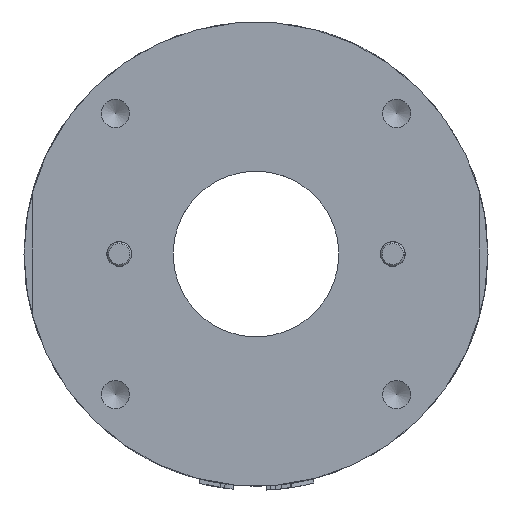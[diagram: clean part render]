
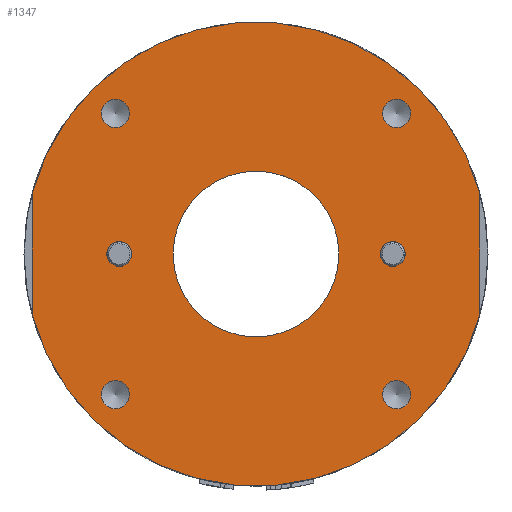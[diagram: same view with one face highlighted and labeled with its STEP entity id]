
A CAD part, left-side view. The second image highlights one B-rep face of the part: STEP entity #1347.
In plain terms, the highlighted planar face has unit normal (-1, 0, 0).
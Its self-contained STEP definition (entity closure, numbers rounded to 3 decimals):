
#333=FACE_BOUND('',#2508,.T.);
#334=FACE_BOUND('',#2509,.T.);
#335=FACE_BOUND('',#2510,.T.);
#336=FACE_BOUND('',#2511,.T.);
#337=FACE_BOUND('',#2512,.T.);
#338=FACE_BOUND('',#2513,.T.);
#339=FACE_BOUND('',#2514,.T.);
#340=FACE_BOUND('',#2515,.T.);
#471=CIRCLE('',#7249,1.5);
#472=CIRCLE('',#7252,1.5);
#528=CIRCLE('',#7361,28.);
#532=CIRCLE('',#7369,28.);
#533=CIRCLE('',#7371,1.7);
#534=CIRCLE('',#7373,1.7);
#535=CIRCLE('',#7375,1.7);
#536=CIRCLE('',#7377,1.7);
#538=CIRCLE('',#7389,10.);
#855=PLANE('',#7390);
#1002=LINE('',#28292,#1736);
#1006=LINE('',#28304,#1740);
#1347=ADVANCED_FACE('',(#333,#334,#335,#336,#337,#338,#339,#340),#855,.T.);
#1736=VECTOR('',#8510,1.);
#1740=VECTOR('',#8522,1.);
#2508=EDGE_LOOP('',(#4104));
#2509=EDGE_LOOP('',(#4105));
#2510=EDGE_LOOP('',(#4106));
#2511=EDGE_LOOP('',(#4107));
#2512=EDGE_LOOP('',(#4108));
#2513=EDGE_LOOP('',(#4109));
#2514=EDGE_LOOP('',(#4110));
#2515=EDGE_LOOP('',(#4111,#4112,#4113,#4114));
#4104=ORIENTED_EDGE('',*,*,#6158,.T.);
#4105=ORIENTED_EDGE('',*,*,#6157,.T.);
#4106=ORIENTED_EDGE('',*,*,#6156,.T.);
#4107=ORIENTED_EDGE('',*,*,#6155,.T.);
#4108=ORIENTED_EDGE('',*,*,#6063,.T.);
#4109=ORIENTED_EDGE('',*,*,#6066,.T.);
#4110=ORIENTED_EDGE('',*,*,#6167,.T.);
#4111=ORIENTED_EDGE('',*,*,#6154,.F.);
#4112=ORIENTED_EDGE('',*,*,#6151,.T.);
#4113=ORIENTED_EDGE('',*,*,#6146,.F.);
#4114=ORIENTED_EDGE('',*,*,#6145,.T.);
#5123=VERTEX_POINT('',#27827);
#5126=VERTEX_POINT('',#27843);
#5206=VERTEX_POINT('',#28287);
#5208=VERTEX_POINT('',#28291);
#5209=VERTEX_POINT('',#28295);
#5212=VERTEX_POINT('',#28302);
#5214=VERTEX_POINT('',#28314);
#5215=VERTEX_POINT('',#28317);
#5216=VERTEX_POINT('',#28320);
#5217=VERTEX_POINT('',#28323);
#5225=VERTEX_POINT('',#28575);
#6063=EDGE_CURVE('',#5123,#5123,#471,.T.);
#6066=EDGE_CURVE('',#5126,#5126,#472,.T.);
#6145=EDGE_CURVE('',#5206,#5208,#1002,.T.);
#6146=EDGE_CURVE('',#5206,#5209,#528,.T.);
#6151=EDGE_CURVE('',#5212,#5209,#1006,.T.);
#6154=EDGE_CURVE('',#5212,#5208,#532,.T.);
#6155=EDGE_CURVE('',#5214,#5214,#533,.T.);
#6156=EDGE_CURVE('',#5215,#5215,#534,.T.);
#6157=EDGE_CURVE('',#5216,#5216,#535,.T.);
#6158=EDGE_CURVE('',#5217,#5217,#536,.T.);
#6167=EDGE_CURVE('',#5225,#5225,#538,.T.);
#7249=AXIS2_PLACEMENT_3D('',#27826,#8271,#8272);
#7252=AXIS2_PLACEMENT_3D('',#27842,#8277,#8278);
#7361=AXIS2_PLACEMENT_3D('',#28294,#8513,#8514);
#7369=AXIS2_PLACEMENT_3D('',#28311,#8533,#8534);
#7371=AXIS2_PLACEMENT_3D('',#28313,#8537,#8538);
#7373=AXIS2_PLACEMENT_3D('',#28316,#8541,#8542);
#7375=AXIS2_PLACEMENT_3D('',#28319,#8545,#8546);
#7377=AXIS2_PLACEMENT_3D('',#28322,#8549,#8550);
#7389=AXIS2_PLACEMENT_3D('',#28574,#8573,#8574);
#7390=AXIS2_PLACEMENT_3D('',#28576,#8575,#8576);
#8271=DIRECTION('',(1.,0.,0.));
#8272=DIRECTION('',(0.,0.,-1.));
#8277=DIRECTION('',(1.,0.,0.));
#8278=DIRECTION('',(0.,0.,-1.));
#8510=DIRECTION('',(0.,0.,-1.));
#8513=DIRECTION('',(1.,0.,0.));
#8514=DIRECTION('',(0.,0.,-1.));
#8522=DIRECTION('',(0.,0.,1.));
#8533=DIRECTION('',(1.,0.,0.));
#8534=DIRECTION('',(0.,0.,-1.));
#8537=DIRECTION('',(1.,0.,0.));
#8538=DIRECTION('',(0.,0.707,-0.707));
#8541=DIRECTION('',(1.,0.,0.));
#8542=DIRECTION('',(0.,0.707,0.707));
#8545=DIRECTION('',(1.,0.,0.));
#8546=DIRECTION('',(0.,-0.707,0.707));
#8549=DIRECTION('',(1.,0.,0.));
#8550=DIRECTION('',(0.,-0.707,-0.707));
#8573=DIRECTION('',(1.,0.,0.));
#8574=DIRECTION('',(0.,0.,-1.));
#8575=DIRECTION('',(-1.,0.,0.));
#8576=DIRECTION('',(0.,0.,-1.));
#27826=CARTESIAN_POINT('',(0.,16.5,0.));
#27827=CARTESIAN_POINT('',(0.,16.5,-1.5));
#27842=CARTESIAN_POINT('',(0.,-16.5,0.));
#27843=CARTESIAN_POINT('',(0.,-16.5,-1.5));
#28287=CARTESIAN_POINT('',(0.,27.,7.416));
#28291=CARTESIAN_POINT('',(0.,27.,-7.416));
#28292=CARTESIAN_POINT('',(0.,27.,0.));
#28294=CARTESIAN_POINT('',(0.,0.,0.));
#28295=CARTESIAN_POINT('',(0.,-27.,7.416));
#28302=CARTESIAN_POINT('',(0.,-27.,-7.416));
#28304=CARTESIAN_POINT('',(0.,-27.,0.));
#28311=CARTESIAN_POINT('',(0.,0.,0.));
#28313=CARTESIAN_POINT('',(0.,16.971,16.971));
#28314=CARTESIAN_POINT('',(0.,18.173,15.768));
#28316=CARTESIAN_POINT('',(0.,-16.971,16.971));
#28317=CARTESIAN_POINT('',(0.,-15.768,18.173));
#28319=CARTESIAN_POINT('',(0.,-16.971,-16.971));
#28320=CARTESIAN_POINT('',(0.,-18.173,-15.768));
#28322=CARTESIAN_POINT('',(0.,16.971,-16.971));
#28323=CARTESIAN_POINT('',(0.,15.768,-18.173));
#28574=CARTESIAN_POINT('',(0.,0.,0.));
#28575=CARTESIAN_POINT('',(0.,0.,-10.));
#28576=CARTESIAN_POINT('',(0.,0.,0.));
